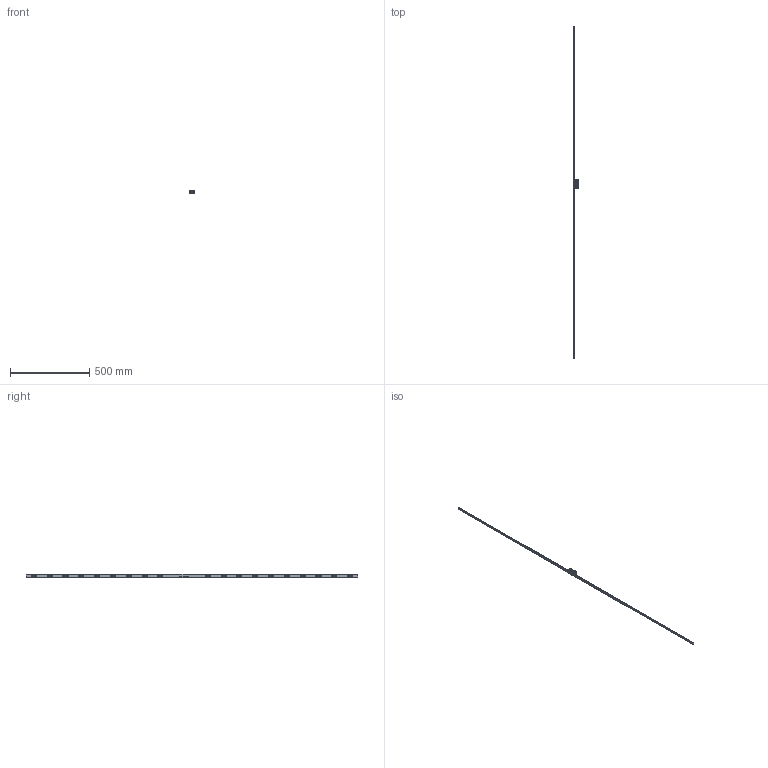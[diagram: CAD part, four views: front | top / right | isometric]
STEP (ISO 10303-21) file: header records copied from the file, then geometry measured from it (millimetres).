
FILE_DESCRIPTION (( 'STEP AP214' ), '1' );
FILE_NAME ('1321-1100-2100_Industrilas.step', '2026-03-03T05:59:22', ( '' ), ( '' ), 'SwSTEP 2.0', 'SolidWorks 2010', '' );
FILE_SCHEMA (( 'AUTOMOTIVE_DESIGN' ));
Products named in the file (5): 00005984(13110501); 00005985; 00005995(13300503); 00159074(1321-1100-2100-1); 1321-1100-2100_Industrilas
Assembly tree (5 placements, depth 2):
  1321-1100-2100_Industrilas
    00005995(13300503)
    00159074(1321-1100-2100-1)
    00005985
    00005984(13110501)  x2
Bounding box: 30.7 x 2100 x 19 mm (x, y, z)
Volume: 95938.6 mm3; surface area: 88490.8 mm2
Topology: 5 solids, 5 shells, 2025 faces, 5319 edges, 3318 vertices
Faces by surface type: cylinder 813, plane 724, bspline 232, sphere 120, torus 70, cone 66
Entity records: 52713 total; most frequent: CARTESIAN_POINT 12909, ORIENTED_EDGE 8612, DIRECTION 8075, EDGE_CURVE 4306, AXIS2_PLACEMENT_3D 2840, VERTEX_POINT 2742, LINE 2395, VECTOR 2395
